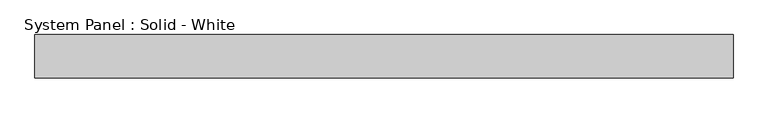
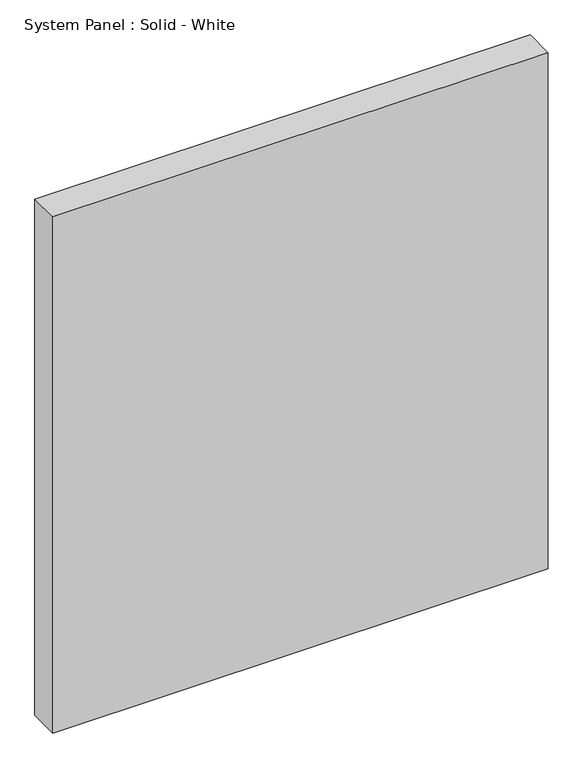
"""IFC4 building model written with IfcOpenShell, lengths in millimetres: plate geometry, System Panel : Solid - White."""

import ifcopenshell
import ifcopenshell.guid

model = None  # the IFC model being written
_history = None  # IfcOwnerHistory: only IFC2X3 demands one
_inside = {}  # id of a spatial element -> (the spatial element, [elements in it])
_under = {}  # id of a project, library or spatial element -> (it, [spatial elements below it])
_declared = {}  # id of a project -> (the project, [libraries it declares])
_typed = {}  # id of a type object -> (the type object, [elements of that type])
_made_of = {}  # id of a material, layer set ... -> (it, [elements and type objects made of it])


def new_model(schema):
    """Start an empty IFC model of exactly this schema.

    Asked for "IFC4X3", IfcOpenShell would pick the latest addendum, in which some entities
    have other attributes; the version numbers below select the first issue.
    IFC2X3 requires an IfcOwnerHistory on every rooted entity: one is made here for all.
    """
    global model, _history
    if schema == "IFC4X3":
        model = ifcopenshell.file(schema_version=(4, 3, 0, 0))
    else:
        model = ifcopenshell.file(schema=schema)
    _inside.clear()
    _under.clear()
    _declared.clear()
    _typed.clear()
    _made_of.clear()
    _history = None
    if model.schema == "IFC2X3":
        org = make("IfcOrganization", Name="unknown")
        user = make(
            "IfcPersonAndOrganization",
            ThePerson=make("IfcPerson", FamilyName="unknown"),
            TheOrganization=org,
        )
        app = make(
            "IfcApplication",
            ApplicationDeveloper=org,
            Version="unknown",
            ApplicationFullName="unknown",
            ApplicationIdentifier="unknown",
        )
        _history = make(
            "IfcOwnerHistory",
            OwningUser=user,
            OwningApplication=app,
            ChangeAction="ADDED",
            CreationDate=0,
        )
    return model


def make(cls, **values):
    """One entity of the class cls with the attributes given. An attribute that is None is left unset."""
    return model.create_entity(
        cls, **{name: value for name, value in values.items() if value is not None}
    )


def rooted(cls, **values):
    """An entity with a GlobalId (a new one), such as an element, a storey or a relation."""
    return make(cls, GlobalId=ifcopenshell.guid.new(), OwnerHistory=_history, **values)


def si_unit(unit_type, name, prefix=None):
    """IfcSIUnit, for example si_unit("LENGTHUNIT", "METRE", prefix="MILLI")."""
    return make("IfcSIUnit", UnitType=unit_type, Prefix=prefix, Name=name)


def assignment(units):
    """IfcUnitAssignment: the units of a project."""
    return None if units is None else make("IfcUnitAssignment", Units=units)


def point(xyz):
    """IfcCartesianPoint."""
    return None if xyz is None else make("IfcCartesianPoint", Coordinates=xyz)


def direction(xyz):
    """IfcDirection."""
    return None if xyz is None else make("IfcDirection", DirectionRatios=xyz)


def frame(location, z_axis=None, x_axis=None):
    """IfcAxis2Placement3D, a coordinate frame: its origin and axes. An axis left out is left unset."""
    return make(
        "IfcAxis2Placement3D",
        Location=point(location),
        Axis=direction(z_axis),
        RefDirection=direction(x_axis),
    )


def origin():
    """The frame at (0, 0, 0) with its axes left unset."""
    return frame((0.0, 0.0, 0.0))


def origin_with_axes():
    """The frame at (0, 0, 0) with the z axis (0, 0, 1) and the x axis (1, 0, 0) written out."""
    return frame((0.0, 0.0, 0.0), z_axis=(0.0, 0.0, 1.0), x_axis=(1.0, 0.0, 0.0))


def place(relative_to, where):
    """IfcLocalPlacement: puts the frame where relative to a parent placement (None: the world)."""
    return make(
        "IfcLocalPlacement", PlacementRelTo=relative_to, RelativePlacement=where
    )


def context(
    kind, dimensions, precision=None, world=None, true_north=None, identifier=None
):
    """IfcGeometricRepresentationContext, for example the 3D "Model" context."""
    return make(
        "IfcGeometricRepresentationContext",
        ContextIdentifier=identifier,
        ContextType=kind,
        CoordinateSpaceDimension=dimensions,
        Precision=precision,
        WorldCoordinateSystem=world,
        TrueNorth=true_north,
    )


def project(units=None, contexts=None):
    """IfcProject with its units and contexts."""
    return rooted(
        "IfcProject",
        Name="project",
        RepresentationContexts=contexts,
        UnitsInContext=assignment(units),
    )


def spatial(cls, under=None, at=None, **own):
    """A site, building, storey or space (cls), placed at a placement, below another one or the project."""
    s = rooted(cls, ObjectPlacement=at, **own)
    if under is not None:
        _under.setdefault(under.id(), (under, []))[1].append(s)
    return s


def polyline(points):
    """IfcPolyline through the points."""
    return make("IfcPolyline", Points=[point(p) for p in points])


def outline(outer, holes=None, kind="AREA"):
    """IfcArbitraryClosedProfileDef: a profile drawn as a closed curve; with holes, ...WithVoids."""
    if holes is None:
        return make("IfcArbitraryClosedProfileDef", ProfileType=kind, OuterCurve=outer)
    return make(
        "IfcArbitraryProfileDefWithVoids",
        ProfileType=kind,
        OuterCurve=outer,
        InnerCurves=holes,
    )


def extrude(swept, where, along, depth):
    """IfcExtrudedAreaSolid: the profile swept, set in the frame where, extruded along a direction by depth."""
    return make(
        "IfcExtrudedAreaSolid",
        SweptArea=swept,
        Position=where,
        ExtrudedDirection=direction(along),
        Depth=depth,
    )


def shape(context_of_items, identifier, shape_type, items):
    """IfcShapeRepresentation: the items that make up one representation, for example the "Body"."""
    return make(
        "IfcShapeRepresentation",
        ContextOfItems=context_of_items,
        RepresentationIdentifier=identifier,
        RepresentationType=shape_type,
        Items=items,
    )


def source(mapping_origin, context_of_items, identifier, shape_type, items):
    """IfcRepresentationMap: a shape defined once, which mapped items show again and again."""
    return make(
        "IfcRepresentationMap",
        MappingOrigin=mapping_origin,
        MappedRepresentation=shape(context_of_items, identifier, shape_type, items),
    )


def transform(
    local_origin,
    x_axis=None,
    y_axis=None,
    z_axis=None,
    scale=None,
    scale2=None,
    scale3=None,
    uniform=True,
):
    """IfcCartesianTransformationOperator3D, or its non-uniform kind. x_axis, y_axis, z_axis: its Axis1, 2, 3."""
    if uniform:
        return make(
            "IfcCartesianTransformationOperator3D",
            Axis1=direction(x_axis),
            Axis2=direction(y_axis),
            LocalOrigin=point(local_origin),
            Scale=scale,
            Axis3=direction(z_axis),
        )
    return make(
        "IfcCartesianTransformationOperator3DnonUniform",
        Axis1=direction(x_axis),
        Axis2=direction(y_axis),
        LocalOrigin=point(local_origin),
        Scale=scale,
        Axis3=direction(z_axis),
        Scale2=scale2,
        Scale3=scale3,
    )


def mapped(mapping_source, mapping_target):
    """IfcMappedItem: shows the shape of a source again, moved by a transform."""
    return make(
        "IfcMappedItem", MappingSource=mapping_source, MappingTarget=mapping_target
    )


def made_of(thing, what):
    """Note that an element or type object is made of a material, layer set ...; save() writes the relation."""
    if what is not None:
        _made_of.setdefault(what.id(), (what, []))[1].append(thing)
    return thing


def element(
    cls,
    number,
    at=None,
    inside=None,
    cuts=None,
    type_object=None,
    material=None,
    context=None,
    identifier="Body",
    shape_type=None,
    held_by="IfcProductDefinitionShape",
    body=None,
    shapes=None,
    **own,
):
    """One element of the class cls, such as IfcWall. Its Tag is "e" and its number.

    at: its placement. inside: the storey or other place that contains it. cuts: it is an
    opening in that element (IfcRelVoidsElement). A single representation is given by context,
    identifier, shape_type and body (its items); several are given by shapes. held_by: the class
    of the entity that holds the representations. save() writes the other relations.
    """
    e = rooted(cls, Tag="e%d" % number, ObjectPlacement=at, **own)
    if body is not None:
        shapes = [shape(context, identifier, shape_type, body)]
    if shapes is not None:
        e.Representation = make(held_by, Representations=shapes)
    if inside is not None:
        _inside.setdefault(inside.id(), (inside, []))[1].append(e)
    if cuts is not None:
        rooted(
            "IfcRelVoidsElement", RelatingBuildingElement=cuts, RelatedOpeningElement=e
        )
    if type_object is not None:
        _typed.setdefault(type_object.id(), (type_object, []))[1].append(e)
    return made_of(e, material)


def aggregate(whole, parts):
    """IfcRelAggregates: a whole, such as a stair, and the parts it consists of."""
    return rooted("IfcRelAggregates", RelatingObject=whole, RelatedObjects=parts)


def save(model, path):
    """Write the relations noted so far, then the file.

    IfcRelAggregates (storeys below a building ...), IfcRelContainedInSpatialStructure (elements
    in a storey), IfcRelDefinesByType, IfcRelAssociatesMaterial and IfcRelDeclares: one each for
    every whole, place, type object, material and project.
    """
    for whole, parts in _under.values():
        aggregate(whole, parts)
    for where, things in _inside.values():
        rooted(
            "IfcRelContainedInSpatialStructure",
            RelatedElements=things,
            RelatingStructure=where,
        )
    for kind, things in _typed.values():
        rooted("IfcRelDefinesByType", RelatedObjects=things, RelatingType=kind)
    for what, things in _made_of.values():
        rooted("IfcRelAssociatesMaterial", RelatedObjects=things, RelatingMaterial=what)
    for by, libraries in _declared.values():
        rooted("IfcRelDeclares", RelatingContext=by, RelatedDefinitions=libraries)
    model.write(path)


def system_panel_solid_white_9a74bd08(model_context):
    return source(origin(), model_context, "Body", "SweptSolid", [
        extrude(outline(polyline([(510.2678571, -19.05), (-510.2678571, -19.05), (-510.2678571, 44.45), (510.2678571, 44.45), (510.2678571, -19.05)])), origin_with_axes(), (0.0, 0.0, 1.0), 1123.95),
    ])


if __name__ == "__main__":
    model = new_model("IFC4")
    model_context = context("Model", 3, world=origin())
    ifc_project = project(units=[si_unit("LENGTHUNIT", "METRE", prefix="MILLI")], contexts=[model_context])
    site = spatial("IfcSite", under=ifc_project)
    building = spatial("IfcBuilding", under=site)
    placement = place(None, origin())
    system_panel_solid_white_shape = system_panel_solid_white_9a74bd08(model_context)
    element("IfcPlate", 1, ObjectType="System Panel : Solid - White", at=placement, inside=building, context=model_context, shape_type="MappedRepresentation", body=[
        mapped(system_panel_solid_white_shape, transform((0.0, 0.0, 0.0), x_axis=(1.0, 0.0, 0.0), y_axis=(0.0, 1.0, 0.0), z_axis=(0.0, 0.0, 1.0))),
    ])
    save(model, "model.ifc")
